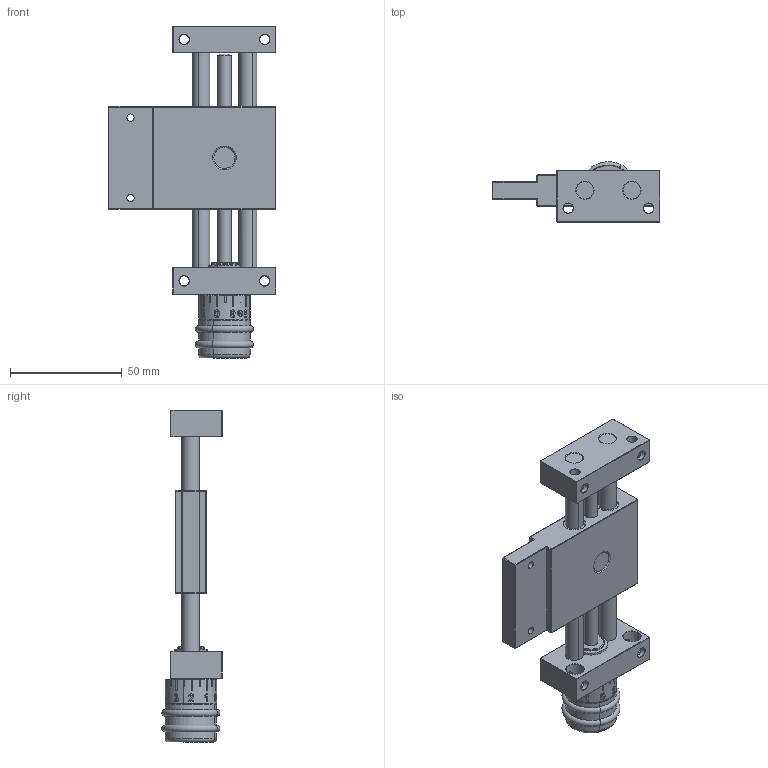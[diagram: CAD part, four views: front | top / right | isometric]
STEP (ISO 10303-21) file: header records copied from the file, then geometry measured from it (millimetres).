
FILE_DESCRIPTION (( 'STEP AP203' ), '1' );
FILE_NAME ('KT4808-KR-SK-Kreuztisch.STEP', '2016-01-15T17:05:23', ( '' ), ( '' ), 'SwSTEP 2.0', 'SolidWorks 2014', '' );
FILE_SCHEMA (( 'CONFIG_CONTROL_DESIGN' ));
Length unit declared in the file: millimetre
Products named in the file (3): PT4808-000-01-Festteil-SK_n_Standard; KT08-000-02-K-Schlitten-komplett; KT4808-KR-SK-Kreuztisch
Assembly tree (2 placements, depth 2):
  KT4808-KR-SK-Kreuztisch
    PT4808-000-01-Festteil-SK_n_Standard
    KT08-000-02-K-Schlitten-komplett
Bounding box: 75 x 26.98 x 148.49 mm (x, y, z)
Volume: 80063.1 mm3; surface area: 35512.7 mm2
Topology: 2 solids, 5 shells, 672 faces, 1667 edges, 1056 vertices
Faces by surface type: plane 268, cylinder 155, cone 125, bspline 102, torus 20, sphere 2
Entity records: 35120 total; most frequent: CARTESIAN_POINT 19447, ORIENTED_EDGE 3322, DIRECTION 2956, EDGE_CURVE 1661, AXIS2_PLACEMENT_3D 1134, VERTEX_POINT 1056, EDGE_LOOP 775, VECTOR 688
